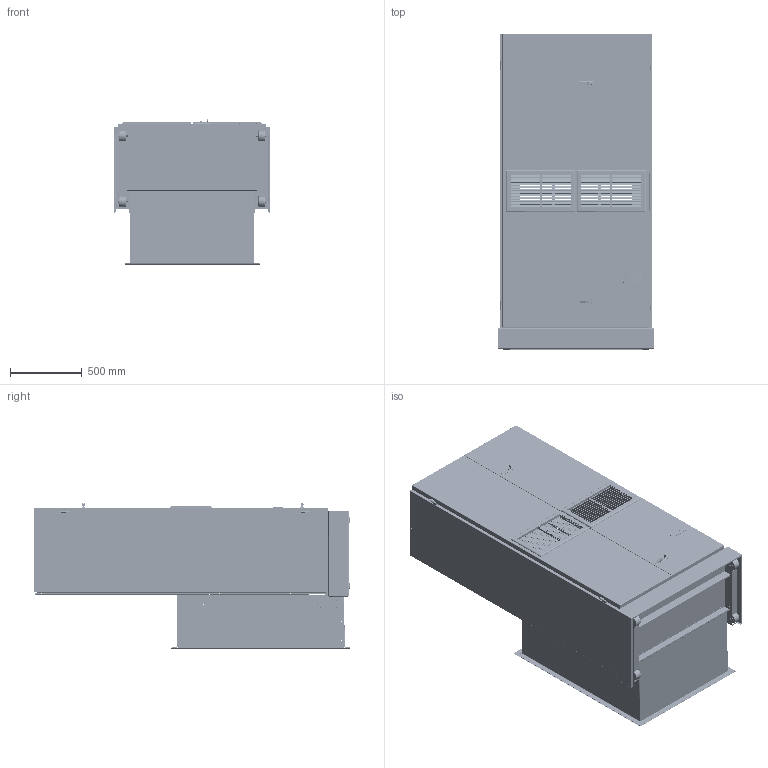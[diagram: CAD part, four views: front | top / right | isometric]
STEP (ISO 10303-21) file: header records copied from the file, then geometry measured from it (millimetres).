
FILE_DESCRIPTION (( 'STEP AP214' ), '1' );
FILE_NAME ('Q24-36H4.STEP', '2020-11-09T19:59:18', ( '' ), ( '' ), 'SwSTEP 2.0', 'SolidWorks 2020', '' );
FILE_SCHEMA (( 'AUTOMOTIVE_DESIGN' ));
Length unit declared in the file: inch
Products named in the file (93): DP-196-1060_Compression; 1171-049h; DP-196-006; DP-196-1074_Standard Thickness; 1171-049e; 1171-035; 7051- louver slide; DP-196-1006; DP-196-1068_Compression; 7051- middle support; DP-196-1095; DP-196-1014; 5400-005, male hinge; 110-047; 5252-033; Q24-36H4; DP-196-1073_Compression; DP-196-1015; DP-196Y1098; DP-196-1005; 136-449; 1171-049g; 140-227; DP-196-1079_Compression; 1171-049c; 110-080; DP-196-1070_Compression; 7051- assembly; DP-196-1003; DP-196Y1095; DP-196-0156; DP-196-1001; 110-081; DP-196-1057; DP-196-1004; DP-196-1011; DP-196-1017; DP-196-1063_Compression; DP-196-1010; DP-196-1061_Compression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
Assembly tree (188 placements, depth 3):
  Q24-36H4
    DP-196-1001
    DP-196-1002  x2
    DP-196-1003  x2
    1012-129  x4
    1171-035  x4
    DP-196-1004  x2
    DP-196-1005  x2
    DP-196-1006
    DP-196-0143
    DP-196-1014
    DP-196-1007
    DP-196-1008
    5400-005, male hinge  x4
    5400-005 female hinge  x4
    1171-049, locking door latch_Latch Closed
      1171-049a
      1171-049b
      1171-049c
      1171-049d
      1171-049e
      1171-049f
      1171-049g
      1171-049h
      1171-049i
      1171-049j
    DP-196-1009
    DP-196-0152
    DP-196-1010
    1171-049, locking door latch_Latch Open
      1171-049a
      1171-049b
      1171-049c
      1171-049d
      1171-049e
      1171-049f
      1171-049g
      1171-049h
      1171-049i
      1171-049j
    DP-196-1015
    DP-196-1017
    7051- assembly
      7051- frame_Sides  x2
      7051- frame_19.125top and bottom  x2
      7051- middle support
      7051- louver  x24
      7051- louver slide  x4
    7051- assembly
      7051- frame_Sides  x2
      7051- frame_19.125top and bottom  x2
      7051- middle support
      7051- louver  x24
      7051- louver slide  x4
    5252-033
    DP-196-1011
    DP-196-0156
    DP-196-1016
    7051-033 frame
    DP-196-0154
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Bounding box: 1093.29 x 2209.49 x 1017.64 mm (x, y, z)
Volume: 69595556 mm3; surface area: 55485075.8 mm2
Topology: 195 solids, 195 shells, 9448 faces, 22896 edges, 13892 vertices
Faces by surface type: plane 4918, cylinder 2379, cone 1622, torus 283, bspline 194, sphere 52
Entity records: 199779 total; most frequent: CARTESIAN_POINT 41363, DIRECTION 31676, ORIENTED_EDGE 29834, EDGE_CURVE 14917, AXIS2_PLACEMENT_3D 11226, LINE 9224, VECTOR 9224, VERTEX_POINT 9035
